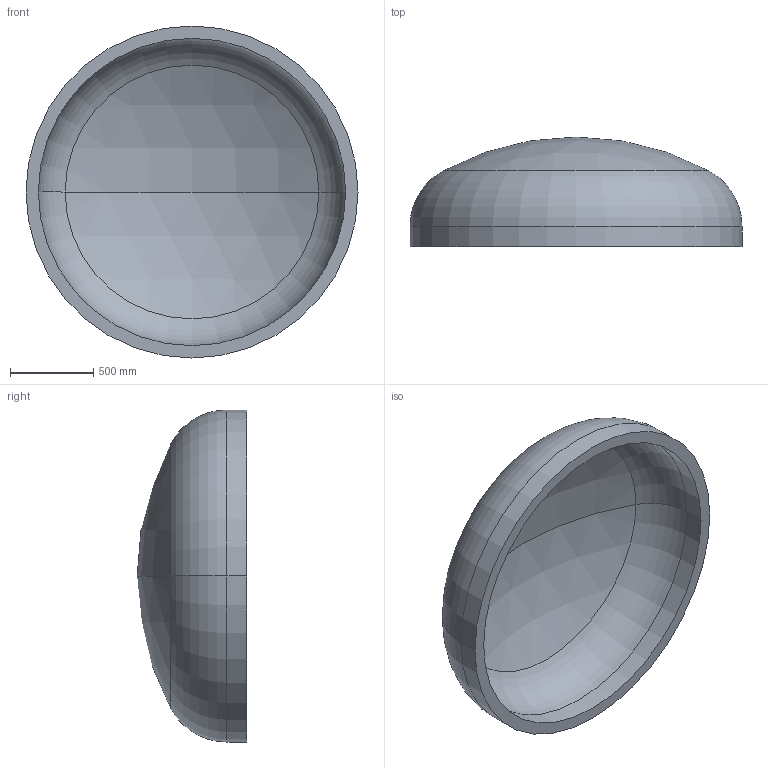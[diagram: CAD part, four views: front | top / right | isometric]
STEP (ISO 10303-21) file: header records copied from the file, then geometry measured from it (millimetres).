
FILE_DESCRIPTION (( 'STEP AP203' ), '1' );
FILE_NAME ('DIN 28013 Korbbogenform_-_Boden DIN 28013 - 2000 x 120 - I - s=74.step', '2016-07-01T14:02:59', ( '' ), ( '' ), 'SwSTEP 2.0', 'SolidWorks 2013', '' );
FILE_SCHEMA (( 'CONFIG_CONTROL_DESIGN' ));
Length unit declared in the file: millimetre
Products named in the file (1): DIN 28013 Korbbogenform_-_Boden DIN 28013 - 2000 x 120 - I - s=74
Bounding box: 2000 x 660.58 x 2000 mm (x, y, z)
Volume: 361003670.3 mm3; surface area: 10216074.4 mm2
Topology: 1 solids, 1 shells, 13 faces, 24 edges, 14 vertices
Faces by surface type: torus 4, cylinder 4, sphere 4, plane 1
Entity records: 407 total; most frequent: DIRECTION 72, CARTESIAN_POINT 52, ORIENTED_EDGE 48, AXIS2_PLACEMENT_3D 34, EDGE_CURVE 24, CIRCLE 20, EDGE_LOOP 14, VERTEX_POINT 14
